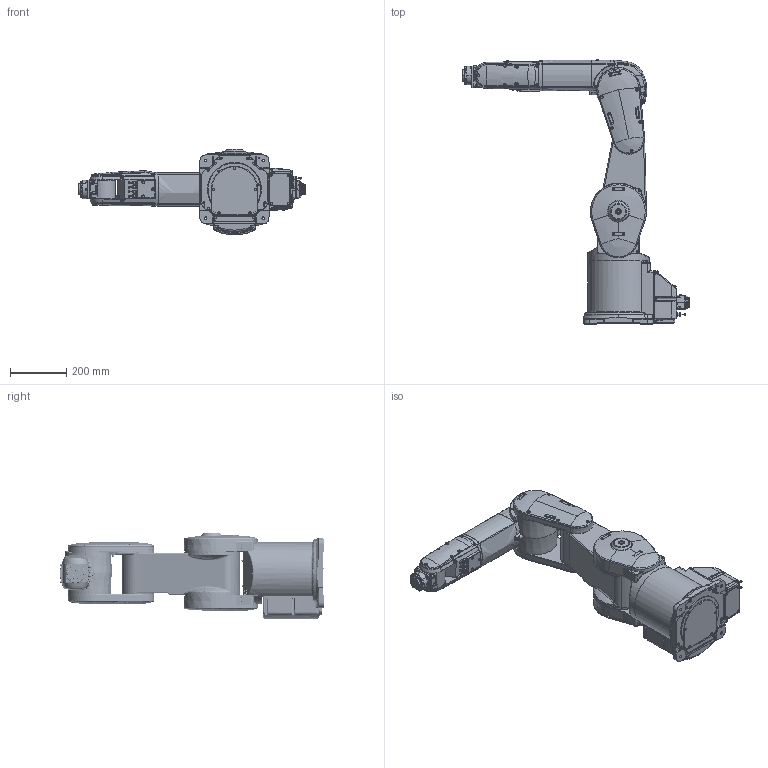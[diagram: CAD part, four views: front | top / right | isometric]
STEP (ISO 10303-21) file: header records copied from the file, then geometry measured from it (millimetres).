
FILE_DESCRIPTION((''),'2;1');
FILE_NAME('RV-7FRL_ASM','2016-12-14T',('1362'),(''),'PRO/ENGINEER BY PARAMETRIC TECHNOLOGY CORPORATION, 2014310','PRO/ENGINEER BY PARAMETRIC TECHNOLOGY CORPORATION, 2014310','');
FILE_SCHEMA(('CONFIG_CONTROL_DESIGN'));
Length unit declared in the file: millimetre
Products named in the file (9): RV-7FL_SKELTON; RV-7FR_BASE; RV-7F_SHOULDER_01; RV-7FL_NO1ARM_02; RV-7F_ELBOW_03; RV-7FL_NO2ARM_04; RV-4F_WRIST_05; RV-4F_HAND_FLANGE_06; RV-7FRL_ASM
Assembly tree (8 placements, depth 2):
  RV-7FRL_ASM
    RV-7FL_SKELTON
    RV-7FR_BASE
    RV-7F_SHOULDER_01
    RV-7FL_NO1ARM_02
    RV-7F_ELBOW_03
    RV-7FL_NO2ARM_04
    RV-4F_WRIST_05
    RV-4F_HAND_FLANGE_06
Bounding box: 807.5 x 940 x 305 mm (x, y, z)
Volume: 38566746.1 mm3; surface area: 1620460.8 mm2
Topology: 7 solids, 17 shells, 4411 faces, 11049 edges, 6840 vertices
Faces by surface type: cylinder 1507, plane 1113, bspline 919, cone 434, torus 355, sphere 50, extrusion 26, revolution 7
Entity records: 298167 total; most frequent: CARTESIAN_POINT 201382, ORIENTED_EDGE 21856, DIRECTION 17798, EDGE_CURVE 10928, AXIS2_PLACEMENT_3D 7012, VERTEX_POINT 6839, EDGE_LOOP 4721, FACE_OUTER_BOUND 4411
